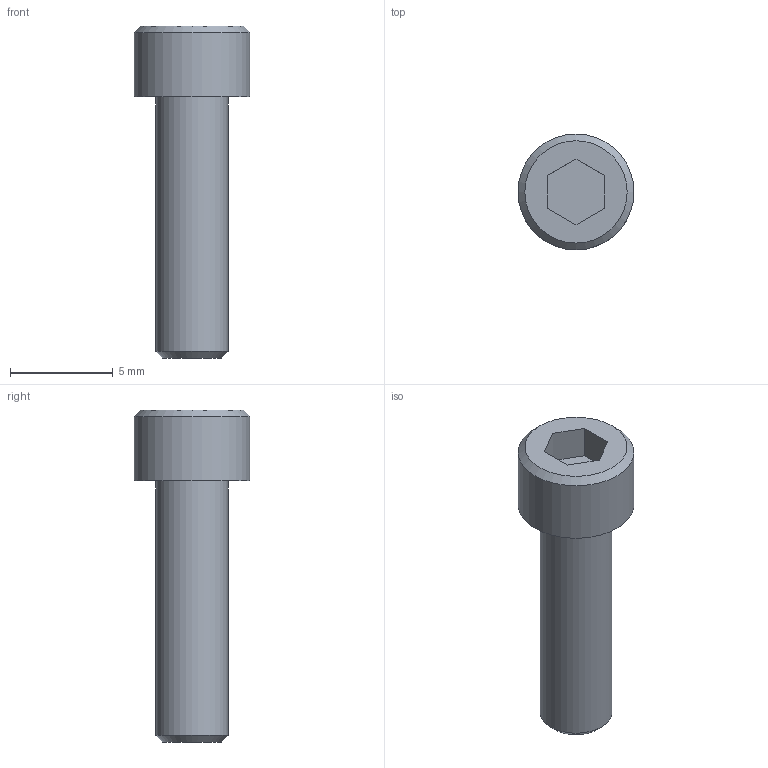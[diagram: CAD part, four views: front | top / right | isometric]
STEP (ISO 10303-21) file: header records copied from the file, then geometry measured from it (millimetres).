
FILE_DESCRIPTION((''),'2;1');
FILE_NAME('C:\Users\Stan\Desktop\import\SHCS 6-32 UNCx0.5.ipt.step','2011-08-18T17:44:41',(''),(''),'Autodesk Inventor 2012','Autodesk Inventor 2012','');
FILE_SCHEMA(('AUTOMOTIVE_DESIGN { 1 0 10303 214 1 1 1 1 }'));
Length unit declared in the file: inch
Products named in the file (1): SHCS 6-32 UNCx0.5
Bounding box: 5.64 x 5.64 x 16.15 mm (x, y, z)
Volume: 196.5 mm3; surface area: 260.7 mm2
Topology: 1 solids, 1 shells, 14 faces, 28 edges, 18 vertices
Faces by surface type: plane 10, cone 2, cylinder 2
Full cylindrical faces by diameter (mm): 3.505 x1, 5.639 x1
Entity records: 391 total; most frequent: DIRECTION 60, CARTESIAN_POINT 57, ORIENTED_EDGE 48, EDGE_CURVE 24, AXIS2_PLACEMENT_3D 21, EDGE_LOOP 20, VERTEX_POINT 18, VECTOR 18
